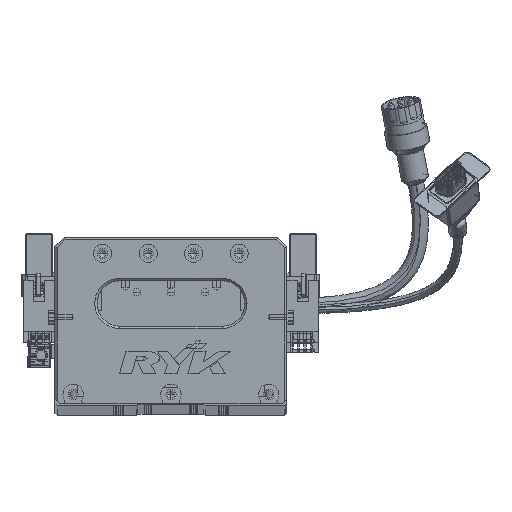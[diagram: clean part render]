
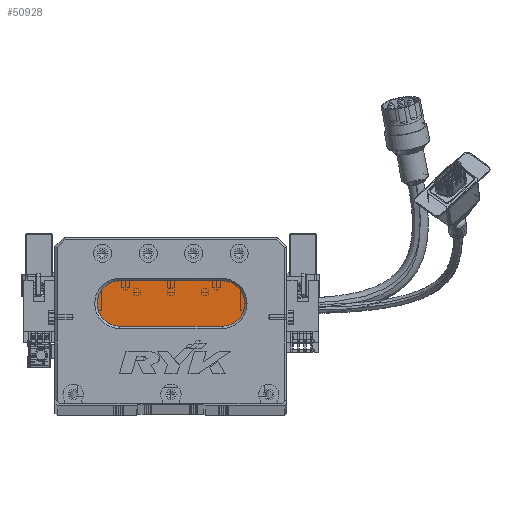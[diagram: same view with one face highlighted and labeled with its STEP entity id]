
A CAD part, top view. The second image highlights one B-rep face of the part: STEP entity #50928.
In plain terms, the highlighted planar face has unit normal (0, 0, 1) as drawn and (0, 0, -1) by its records, which use the part's own axes.
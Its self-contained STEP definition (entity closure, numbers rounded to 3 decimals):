
#940 = EDGE_CURVE ( 'NONE', #77448, #30476, #45687, .T. ) ;
#1815 = VECTOR ( 'NONE', #31611, 1000. ) ;
#2898 = VECTOR ( 'NONE', #38301, 1000. ) ;
#3731 = EDGE_LOOP ( 'NONE', ( #26480, #45346, #58480, #78321, #38399 ) ) ;
#4208 = DIRECTION ( 'NONE',  ( 0., 0., -1. ) ) ;
#11740 = AXIS2_PLACEMENT_3D ( 'NONE', #15854, #42749, #16426 ) ;
#15328 = AXIS2_PLACEMENT_3D ( 'NONE', #26392, #59353, #84681 ) ;
#15854 = CARTESIAN_POINT ( 'NONE',  ( 28.5, 44., 13. ) ) ;
#16426 = DIRECTION ( 'NONE',  ( -1., 0., 0. ) ) ;
#16815 = FACE_OUTER_BOUND ( 'NONE', #3731, .T. ) ;
#20717 = AXIS2_PLACEMENT_3D ( 'NONE', #23404, #4208, #75591 ) ;
#23404 = CARTESIAN_POINT ( 'NONE',  ( 73.5, 44., 13. ) ) ;
#24502 = CARTESIAN_POINT ( 'NONE',  ( 73.5, 44., 13. ) ) ;
#26392 = CARTESIAN_POINT ( 'NONE',  ( 28.5, 44., 13. ) ) ;
#26480 = ORIENTED_EDGE ( 'NONE', *, *, #940, .T. ) ;
#30476 = VERTEX_POINT ( 'NONE', #71668 ) ;
#31611 = DIRECTION ( 'NONE',  ( -1., 0., 0. ) ) ;
#32556 = LINE ( 'NONE', #51614, #1815 ) ;
#35720 = CARTESIAN_POINT ( 'NONE',  ( 18.5, 44., 13. ) ) ;
#37769 = LINE ( 'NONE', #83684, #2898 ) ;
#38301 = DIRECTION ( 'NONE',  ( 1., 0., 0. ) ) ;
#38399 = ORIENTED_EDGE ( 'NONE', *, *, #62575, .T. ) ;
#42749 = DIRECTION ( 'NONE',  ( 0., 0., -1. ) ) ;
#43714 = DIRECTION ( 'NONE',  ( -1., 0., 0. ) ) ;
#45346 = ORIENTED_EDGE ( 'NONE', *, *, #62085, .T. ) ;
#45687 = CIRCLE ( 'NONE', #82498, 10. ) ;
#49306 = VERTEX_POINT ( 'NONE', #58622 ) ;
#50928 = ADVANCED_FACE ( 'NONE', ( #16815 ), #68982, .T. ) ;
#51614 = CARTESIAN_POINT ( 'NONE',  ( 73.5, 34., 13. ) ) ;
#52336 = CARTESIAN_POINT ( 'NONE',  ( 28.5, 34., 13. ) ) ;
#55229 = EDGE_CURVE ( 'NONE', #62897, #49306, #58365, .T. ) ;
#55345 = CIRCLE ( 'NONE', #15328, 10. ) ;
#55874 = VERTEX_POINT ( 'NONE', #52336 ) ;
#58365 = CIRCLE ( 'NONE', #11740, 10. ) ;
#58480 = ORIENTED_EDGE ( 'NONE', *, *, #82522, .T. ) ;
#58622 = CARTESIAN_POINT ( 'NONE',  ( 28.5, 54., 13. ) ) ;
#59353 = DIRECTION ( 'NONE',  ( 0., 0., -1. ) ) ;
#62085 = EDGE_CURVE ( 'NONE', #30476, #55874, #32556, .T. ) ;
#62575 = EDGE_CURVE ( 'NONE', #49306, #77448, #37769, .T. ) ;
#62897 = VERTEX_POINT ( 'NONE', #35720 ) ;
#65530 = CARTESIAN_POINT ( 'NONE',  ( 73.5, 54., 13. ) ) ;
#68982 = PLANE ( 'NONE',  #20717 ) ;
#71668 = CARTESIAN_POINT ( 'NONE',  ( 73.5, 34., 13. ) ) ;
#75591 = DIRECTION ( 'NONE',  ( -1., 0., 0. ) ) ;
#76731 = DIRECTION ( 'NONE',  ( 0., 0., -1. ) ) ;
#77448 = VERTEX_POINT ( 'NONE', #65530 ) ;
#78321 = ORIENTED_EDGE ( 'NONE', *, *, #55229, .T. ) ;
#82498 = AXIS2_PLACEMENT_3D ( 'NONE', #24502, #76731, #43714 ) ;
#82522 = EDGE_CURVE ( 'NONE', #55874, #62897, #55345, .T. ) ;
#83684 = CARTESIAN_POINT ( 'NONE',  ( 73.5, 54., 13. ) ) ;
#84681 = DIRECTION ( 'NONE',  ( -1., 0., 0. ) ) ;
